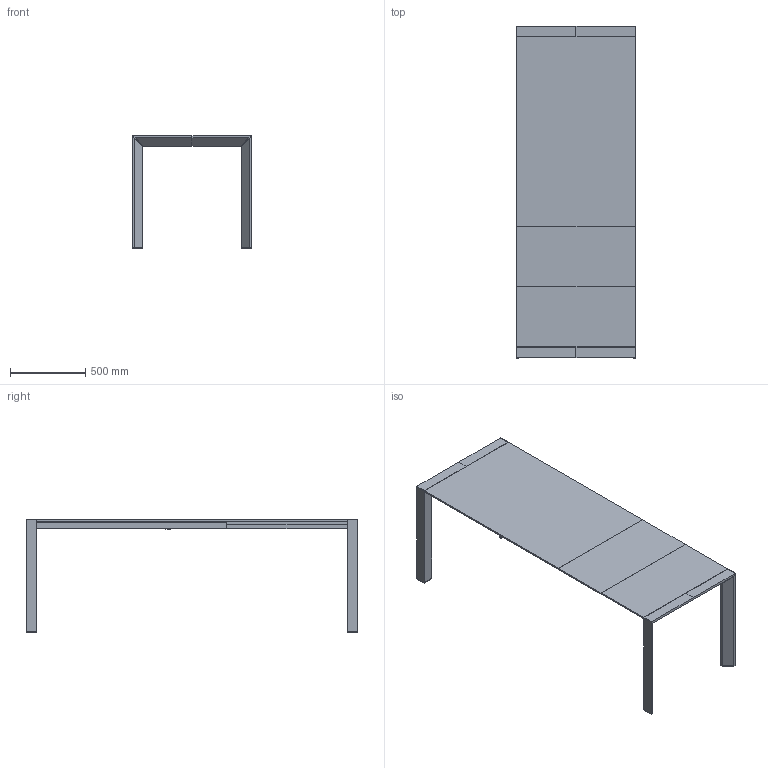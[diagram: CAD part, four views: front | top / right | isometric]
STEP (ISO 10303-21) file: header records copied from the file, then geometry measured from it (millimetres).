
FILE_DESCRIPTION(/* description */ (''),/* implementation_level */ '2;1');
FILE_NAME(/* name */ '10664 - Afill 140+80x79',/* time_stamp */ '2010-11-03T15:11:48+01:00',/* author */ (''),/* organization */ (''),/* preprocessor_version */ 'ST-DEVELOPER v10',/* originating_system */ '',/* authorisation */ '');
FILE_SCHEMA (('CONFIG_CONTROL_DESIGN'));
Length unit declared in the file: centimetre
Products named in the file (1): 1
Bounding box: 792.24 x 2200.6 x 751.1 mm (x, y, z)
Volume: 40711928.8 mm3; surface area: 5697242.4 mm2
Topology: 14 solids, 14 shells, 166 faces, 380 edges, 250 vertices
Faces by surface type: plane 166
Entity records: 4158 total; most frequent: CARTESIAN_POINT 1258, ORIENTED_EDGE 760, EDGE_CURVE 380, B_SPLINE_CURVE_WITH_KNOTS 380, VERTEX_POINT 250, EDGE_LOOP 174, DIRECTION 170, AXIS2_PLACEMENT_3D 168
